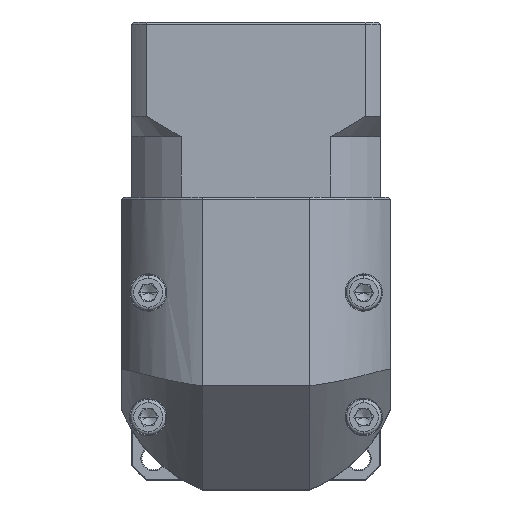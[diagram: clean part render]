
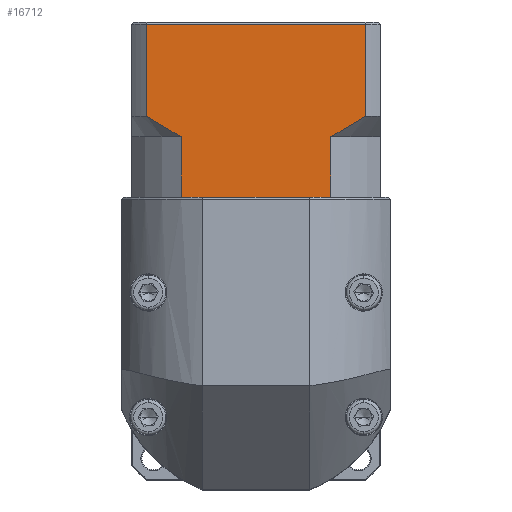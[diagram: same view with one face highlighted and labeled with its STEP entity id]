
A CAD part, top view. The second image highlights one B-rep face of the part: STEP entity #16712.
In plain terms, the highlighted planar face has unit normal (0, 0, 1).
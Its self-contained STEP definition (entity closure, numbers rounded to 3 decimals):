
#665 = CARTESIAN_POINT ( 'NONE',  ( -73.453, 77.807, 38.39 ) ) ;
#1409 = DIRECTION ( 'NONE',  ( 0., 1., 0. ) ) ;
#3798 = CARTESIAN_POINT ( 'NONE',  ( -61.48, 50.107, 38.39 ) ) ;
#6038 = EDGE_CURVE ( 'NONE', #27857, #46037, #90730, .T. ) ;
#12194 = DIRECTION ( 'NONE',  ( 0., -1., 0. ) ) ;
#13746 = CARTESIAN_POINT ( 'NONE',  ( -22.543, 51.657, 38.39 ) ) ;
#14971 = VECTOR ( 'NONE', #27396, 1000. ) ;
#15166 = EDGE_LOOP ( 'NONE', ( #89208, #88602, #99727, #76057, #27335, #56469, #44082, #71191, #93707, #65714 ) ) ;
#16712 = ADVANCED_FACE ( 'NONE', ( #80439 ), #78841, .F. ) ;
#17710 = LINE ( 'NONE', #22259, #52810 ) ;
#18672 = CARTESIAN_POINT ( 'NONE',  ( -69.91, 50.107, 38.39 ) ) ;
#19155 = DIRECTION ( 'NONE',  ( 1., 0., 0. ) ) ;
#20720 = VECTOR ( 'NONE', #12194, 1000. ) ;
#22259 = CARTESIAN_POINT ( 'NONE',  ( -73.453, 35.607, 38.39 ) ) ;
#22426 = AXIS2_PLACEMENT_3D ( 'NONE', #665, #53298, #1409 ) ;
#23087 = EDGE_CURVE ( 'NONE', #95779, #65121, #98260, .T. ) ;
#24635 = CARTESIAN_POINT ( 'NONE',  ( -61.48, 50.107, 38.39 ) ) ;
#27335 = ORIENTED_EDGE ( 'NONE', *, *, #6038, .F. ) ;
#27396 = DIRECTION ( 'NONE',  ( 0., 1., 0. ) ) ;
#27857 = VERTEX_POINT ( 'NONE', #54271 ) ;
#30131 = CARTESIAN_POINT ( 'NONE',  ( -16.995, 55.107, 38.39 ) ) ;
#30721 = VERTEX_POINT ( 'NONE', #90495 ) ;
#31117 = LINE ( 'NONE', #57819, #75845 ) ;
#31238 = CARTESIAN_POINT ( 'NONE',  ( -16.995, 55.107, 38.39 ) ) ;
#34599 = CARTESIAN_POINT ( 'NONE',  ( -73.453, 35.607, 38.39 ) ) ;
#35798 = LINE ( 'NONE', #62377, #42544 ) ;
#36735 = B_SPLINE_CURVE_WITH_KNOTS ( 'NONE', 3,
 ( #55717, #107141, #80508, #90041, #72098, #3798 ),
 .UNSPECIFIED., .F., .F.,
 ( 4, 2, 4 ),
 ( 0.052, 0.057, 0.062 ),
 .UNSPECIFIED. ) ;
#37435 = EDGE_CURVE ( 'NONE', #91766, #46358, #59809, .T. ) ;
#40766 = DIRECTION ( 'NONE',  ( -1., 0., 0. ) ) ;
#42308 = DIRECTION ( 'NONE',  ( 0., -1., 0. ) ) ;
#42544 = VECTOR ( 'NONE', #19155, 1000. ) ;
#43761 = CARTESIAN_POINT ( 'NONE',  ( -26.416, 35.607, 38.39 ) ) ;
#44082 = ORIENTED_EDGE ( 'NONE', *, *, #85209, .T. ) ;
#46037 = VERTEX_POINT ( 'NONE', #24635 ) ;
#46358 = VERTEX_POINT ( 'NONE', #48003 ) ;
#47457 = CARTESIAN_POINT ( 'NONE',  ( -16.995, 50.107, 38.39 ) ) ;
#48003 = CARTESIAN_POINT ( 'NONE',  ( -69.91, 77.307, 38.39 ) ) ;
#48007 = DIRECTION ( 'NONE',  ( 1., 0., 0. ) ) ;
#49358 = CARTESIAN_POINT ( 'NONE',  ( -19.738, 53.331, 38.39 ) ) ;
#51319 = EDGE_CURVE ( 'NONE', #27857, #85041, #110074, .T. ) ;
#51910 = B_SPLINE_CURVE_WITH_KNOTS ( 'NONE', 3,
 ( #90905, #107236, #13746, #49358, #110218, #31238 ),
 .UNSPECIFIED., .F., .F.,
 ( 4, 2, 4 ),
 ( 0.1, 0.104, 0.109 ),
 .UNSPECIFIED. ) ;
#52093 = CARTESIAN_POINT ( 'NONE',  ( -25.425, 50.107, 38.39 ) ) ;
#52810 = VECTOR ( 'NONE', #48007, 1000. ) ;
#53298 = DIRECTION ( 'NONE',  ( 0., 0., -1. ) ) ;
#54271 = CARTESIAN_POINT ( 'NONE',  ( -61.48, 35.607, 38.39 ) ) ;
#55717 = CARTESIAN_POINT ( 'NONE',  ( -69.91, 55.107, 38.39 ) ) ;
#56169 = EDGE_CURVE ( 'NONE', #30721, #61378, #97400, .T. ) ;
#56467 = DIRECTION ( 'NONE',  ( 0., 1., 0. ) ) ;
#56469 = ORIENTED_EDGE ( 'NONE', *, *, #51319, .T. ) ;
#57819 = CARTESIAN_POINT ( 'NONE',  ( -73.453, 77.307, 38.39 ) ) ;
#58045 = EDGE_CURVE ( 'NONE', #91766, #46037, #36735, .T. ) ;
#59809 = LINE ( 'NONE', #18672, #14971 ) ;
#61378 = VERTEX_POINT ( 'NONE', #105677 ) ;
#62377 = CARTESIAN_POINT ( 'NONE',  ( -73.453, 35.607, 38.39 ) ) ;
#65121 = VERTEX_POINT ( 'NONE', #30131 ) ;
#65714 = ORIENTED_EDGE ( 'NONE', *, *, #76730, .T. ) ;
#71191 = ORIENTED_EDGE ( 'NONE', *, *, #92899, .T. ) ;
#71951 = VECTOR ( 'NONE', #75198, 1000. ) ;
#72098 = CARTESIAN_POINT ( 'NONE',  ( -62.933, 50.854, 38.39 ) ) ;
#73201 = CARTESIAN_POINT ( 'NONE',  ( -61.48, 50.107, 38.39 ) ) ;
#74192 = VECTOR ( 'NONE', #42308, 1000. ) ;
#75198 = DIRECTION ( 'NONE',  ( 1., 0., 0. ) ) ;
#75845 = VECTOR ( 'NONE', #40766, 1000. ) ;
#76057 = ORIENTED_EDGE ( 'NONE', *, *, #58045, .T. ) ;
#76730 = EDGE_CURVE ( 'NONE', #30721, #65121, #51910, .T. ) ;
#78841 = PLANE ( 'NONE',  #22426 ) ;
#80439 = FACE_OUTER_BOUND ( 'NONE', #15166, .T. ) ;
#80508 = CARTESIAN_POINT ( 'NONE',  ( -67.172, 53.334, 38.39 ) ) ;
#81503 = EDGE_CURVE ( 'NONE', #95779, #46358, #31117, .T. ) ;
#85041 = VERTEX_POINT ( 'NONE', #108553 ) ;
#85209 = EDGE_CURVE ( 'NONE', #85041, #89380, #35798, .T. ) ;
#87160 = CARTESIAN_POINT ( 'NONE',  ( -69.91, 55.107, 38.39 ) ) ;
#88602 = ORIENTED_EDGE ( 'NONE', *, *, #81503, .T. ) ;
#89208 = ORIENTED_EDGE ( 'NONE', *, *, #23087, .F. ) ;
#89380 = VERTEX_POINT ( 'NONE', #43761 ) ;
#90041 = CARTESIAN_POINT ( 'NONE',  ( -64.364, 51.658, 38.39 ) ) ;
#90495 = CARTESIAN_POINT ( 'NONE',  ( -25.425, 50.107, 38.39 ) ) ;
#90730 = LINE ( 'NONE', #73201, #100257 ) ;
#90905 = CARTESIAN_POINT ( 'NONE',  ( -25.425, 50.107, 38.39 ) ) ;
#91766 = VERTEX_POINT ( 'NONE', #87160 ) ;
#92899 = EDGE_CURVE ( 'NONE', #89380, #61378, #17710, .T. ) ;
#93707 = ORIENTED_EDGE ( 'NONE', *, *, #56169, .F. ) ;
#95779 = VERTEX_POINT ( 'NONE', #104647 ) ;
#97400 = LINE ( 'NONE', #52093, #74192 ) ;
#98260 = LINE ( 'NONE', #47457, #20720 ) ;
#99727 = ORIENTED_EDGE ( 'NONE', *, *, #37435, .F. ) ;
#100257 = VECTOR ( 'NONE', #56467, 1000. ) ;
#104647 = CARTESIAN_POINT ( 'NONE',  ( -16.995, 77.307, 38.39 ) ) ;
#105677 = CARTESIAN_POINT ( 'NONE',  ( -25.425, 35.607, 38.39 ) ) ;
#107141 = CARTESIAN_POINT ( 'NONE',  ( -68.55, 54.207, 38.39 ) ) ;
#107236 = CARTESIAN_POINT ( 'NONE',  ( -23.968, 50.857, 38.39 ) ) ;
#108553 = CARTESIAN_POINT ( 'NONE',  ( -60.489, 35.607, 38.39 ) ) ;
#110074 = LINE ( 'NONE', #34599, #71951 ) ;
#110218 = CARTESIAN_POINT ( 'NONE',  ( -18.358, 54.205, 38.39 ) ) ;
